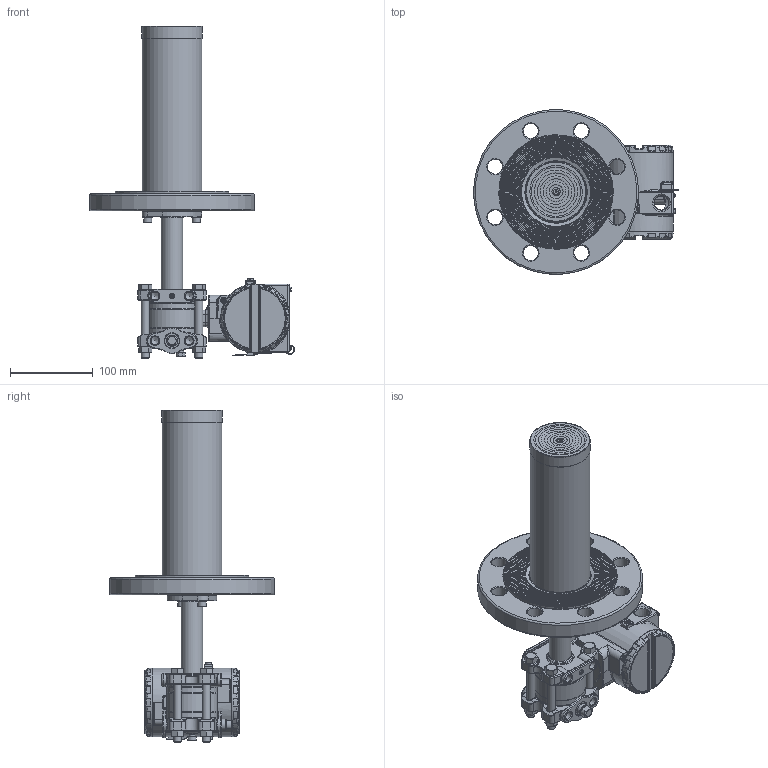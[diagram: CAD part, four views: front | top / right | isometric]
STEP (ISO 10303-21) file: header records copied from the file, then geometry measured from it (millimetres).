
FILE_DESCRIPTION(/* description */ (''),/* implementation_level */ '2;1');
FILE_NAME(/* name */ 'F:\Area\Desenvolvimento_2\Projects\Sensor\projetos\LD30X\montagens 3d - clientes\SELO NIVEL\LD30XL DN80 PN40 RF ext 200 ref 1-4NPT purga acima.stp',/* time_stamp */ '2023-02-15T11:23:42-03:00',/* author */ ('inventor02'),/* organization */ (''),/* preprocessor_version */ 'ST-DEVELOPER v17',/* originating_system */ 'Autodesk Inventor 2019',/* authorisation */ '');
FILE_SCHEMA (('CONFIG_CONTROL_DESIGN'));
Products named in the file (41): LD30XL DN80 PN40 RF ext 200 ref 1-4NPT purga acima; 204-0301-L-DN80 PN40 RF ext 200 purga acima; nivel fx3 com baixa diferencial 1-4NPT purga acima; involucro fx0-3 apos a usinagem final; flange diferencial std purga; 101-C-7484-01 flange selo nivel VR; 201-A-0504-tubo união teste 1; bujao 1-4NPT; Sangria; Porca 3-8 x 16 UNC; Paraf. 3-8 x 16 UNC; adaptação tubo x flanges 1-1-2 a 4pol; 101-B-0161-anel cortado do tubo - teste1; 101-B-0162-flange fixação tubo; ANSI B18.3.1M - M6x1 x 16; DIN 127 - A 6; flange DN80 PN40 ext 200; 101-C-0138-12; 096-B-0199-14; 101-B-7701-02 ext 3-200; carcaça vazia com tampas e plaqueta; carcaça LD inox sem letras; Subconjunto plaqueta 300; Plaqueta transmissor; Parafuso da Plaqueta; Rebite da Plaqueta; 096-A-0169-03; 101-A-0502-01; Chapa aterramento externo; ISO 1207 - M4 x 8; DIN 915 - M6 x 10; ANSI B18.3.1M - M4x0,7 x 8; Subconjunto tampa com visor aluminio; tampa pintada; VIDRO DO VISOR; oring 41x1 vidro tampa; Trava do vidro da tampa com visor; trava do vidro VH256; Subconjunto tampa sem visor-aluminio; tampa cega 300 pintada p0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
Assembly tree (51 placements, depth 4):
  LD30XL DN80 PN40 RF ext 200 ref 1-4NPT purga acima
    204-0301-L-DN80 PN40 RF ext 200 purga acima
      nivel fx3 com baixa diferencial 1-4NPT purga acima
        involucro fx0-3 apos a usinagem final
        flange diferencial std purga
        101-C-7484-01 flange selo nivel VR
        201-A-0504-tubo união teste 1
        DIN 915 - M6 x 10
        bujao 1-4NPT
        Sangria
        Porca 3-8 x 16 UNC  x4
        Paraf. 3-8 x 16 UNC  x4
      adaptação tubo x flanges 1-1-2 a 4pol
        101-B-0161-anel cortado do tubo - teste1
        101-B-0162-flange fixação tubo
        ANSI B18.3.1M - M6x1 x 16  x2
        DIN 127 - A 6  x2
      flange DN80 PN40 ext 200
        101-C-0138-12
        096-B-0199-14
        101-B-7701-02 ext 3-200
    carcaça vazia com tampas e plaqueta
      carcaça LD inox sem letras
      Subconjunto plaqueta 300
        Plaqueta transmissor
        Parafuso da Plaqueta
        Rebite da Plaqueta
        096-A-0169-03
        101-A-0502-01
      Chapa aterramento externo
      ISO 1207 - M4 x 8
      DIN 915 - M6 x 10
      ANSI B18.3.1M - M4x0,7 x 8  x2
      Subconjunto tampa com visor aluminio
        tampa pintada
        VIDRO DO VISOR
        oring 41x1 vidro tampa
        Trava do vidro da tampa com visor
        trava do vidro VH256
        00034775-0
      Subconjunto tampa sem visor-aluminio
        tampa cega 300 pintada p0
        00034775-0
Bounding box: 248.19 x 199.81 x 402.3 mm (x, y, z)
Volume: 1430606.2 mm3; surface area: 433532.3 mm2
Topology: 43 solids, 43 shells, 2792 faces, 6659 edges, 3950 vertices
Faces by surface type: bspline 667, cylinder 660, plane 587, torus 496, cone 256, sphere 126
Full cylindrical faces by diameter (mm): 2 x4, 2.1 x2, 2.459 x5, 2.5 x1, 2.642 x1, 2.7 x1, 2.8 x1, 3 x4, 3.242 x4, 3.5 x5, 3.571 x1, 4 x5, 4.3 x1, 4.4 x1, 4.917 x4, 5 x1, 5.5 x3, 6 x6, 6.647 x1, 7 x7, 7.087 x2, 7.6 x2, 7.798 x4, 8 x1, 8.7 x2, 9.525 x4, 9.728 x6, 10 x2, 10.5 x8, 10.719 x2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
Entity records: 96029 total; most frequent: CARTESIAN_POINT 34876, DIRECTION 12667, ORIENTED_EDGE 12498, EDGE_CURVE 6249, AXIS2_PLACEMENT_3D 5606, VERTEX_POINT 3756, CIRCLE 3325, EDGE_LOOP 2867
